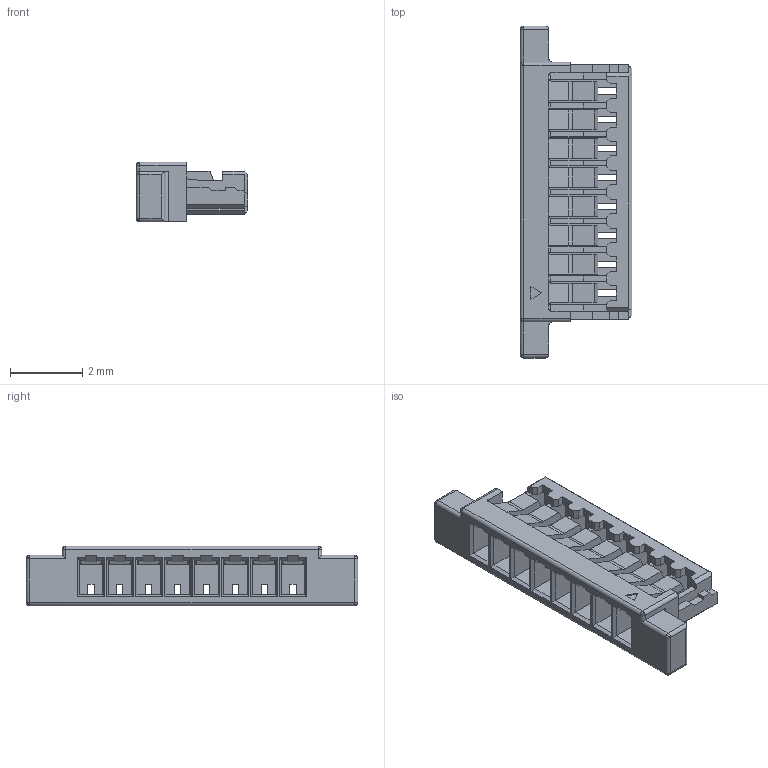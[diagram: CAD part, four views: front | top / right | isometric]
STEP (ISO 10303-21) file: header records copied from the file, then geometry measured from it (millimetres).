
FILE_DESCRIPTION((''),'2;1');
FILE_NAME('SCT0801H-08','2023-04-10T17:06:32',('Administrator'),(''),'CREO PARAMETRIC BY PTC INC, 2018050','CREO PARAMETRIC BY PTC INC, 2018050','');
FILE_SCHEMA(('CONFIG_CONTROL_DESIGN'));
Length unit declared in the file: millimetre
Products named in the file (1): SCT0801H-08
Bounding box: 3.1 x 9.2 x 1.65 mm (x, y, z)
Volume: 16.3 mm3; surface area: 154.7 mm2
Topology: 1 solids, 1 shells, 450 faces, 1240 edges, 761 vertices
Faces by surface type: plane 394, cylinder 44, sphere 12
Entity records: 14015 total; most frequent: CARTESIAN_POINT 2648, ORIENTED_EDGE 2464, DIRECTION 2167, EDGE_CURVE 1232, VECTOR 1127, LINE 1127, VERTEX_POINT 761, AXIS2_PLACEMENT_3D 520
